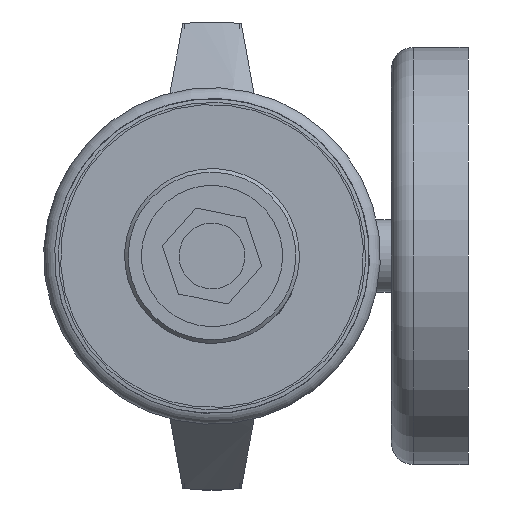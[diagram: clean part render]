
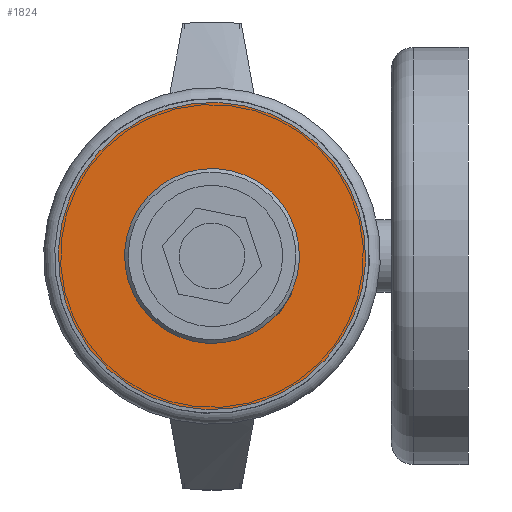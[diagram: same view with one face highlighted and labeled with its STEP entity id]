
A CAD part, left-side view. The second image highlights one B-rep face of the part: STEP entity #1824.
In plain terms, the highlighted planar face has unit normal (-1, 0, 0).
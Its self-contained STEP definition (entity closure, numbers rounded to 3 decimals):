
#1824 = ADVANCED_FACE ( 'NONE', ( #79726, #8313 ), #65777, .F. ) ;
#8313 = FACE_BOUND ( 'NONE', #9222, .T. ) ;
#8867 = DIRECTION ( 'NONE',  ( 0., 0.976, 0.218 ) ) ;
#9222 = EDGE_LOOP ( 'NONE', ( #43001 ) ) ;
#9341 = DIRECTION ( 'NONE',  ( 1., 0., 0. ) ) ;
#9819 = CARTESIAN_POINT ( 'NONE',  ( -152.7, 35., 0. ) ) ;
#15809 = EDGE_CURVE ( 'NONE', #58261, #58261, #40137, .T. ) ;
#23569 = EDGE_CURVE ( 'NONE', #29309, #29309, #78897, .T. ) ;
#24283 = CARTESIAN_POINT ( 'NONE',  ( -152.7, 35., 0. ) ) ;
#29309 = VERTEX_POINT ( 'NONE', #58726 ) ;
#32520 = DIRECTION ( 'NONE',  ( 0., 0.976, 0.218 ) ) ;
#32696 = AXIS2_PLACEMENT_3D ( 'NONE', #9819, #77339, #32520 ) ;
#40137 = CIRCLE ( 'NONE', #64734, 21. ) ;
#42804 = AXIS2_PLACEMENT_3D ( 'NONE', #88321, #51345, #58538 ) ;
#43001 = ORIENTED_EDGE ( 'NONE', *, *, #23569, .T. ) ;
#51345 = DIRECTION ( 'NONE',  ( 1., 0., 0. ) ) ;
#52465 = CARTESIAN_POINT ( 'NONE',  ( -152.7, 55.493, 4.587 ) ) ;
#58261 = VERTEX_POINT ( 'NONE', #52465 ) ;
#58538 = DIRECTION ( 'NONE',  ( 0., 0.976, 0.218 ) ) ;
#58726 = CARTESIAN_POINT ( 'NONE',  ( -152.7, 41.343, 1.42 ) ) ;
#64734 = AXIS2_PLACEMENT_3D ( 'NONE', #24283, #9341, #8867 ) ;
#65777 = PLANE ( 'NONE',  #42804 ) ;
#71037 = ORIENTED_EDGE ( 'NONE', *, *, #15809, .F. ) ;
#77339 = DIRECTION ( 'NONE',  ( 1., 0., 0. ) ) ;
#78897 = CIRCLE ( 'NONE', #32696, 6.5 ) ;
#79726 = FACE_OUTER_BOUND ( 'NONE', #92663, .T. ) ;
#88321 = CARTESIAN_POINT ( 'NONE',  ( -152.7, 30.413, 20.493 ) ) ;
#92663 = EDGE_LOOP ( 'NONE', ( #71037 ) ) ;
